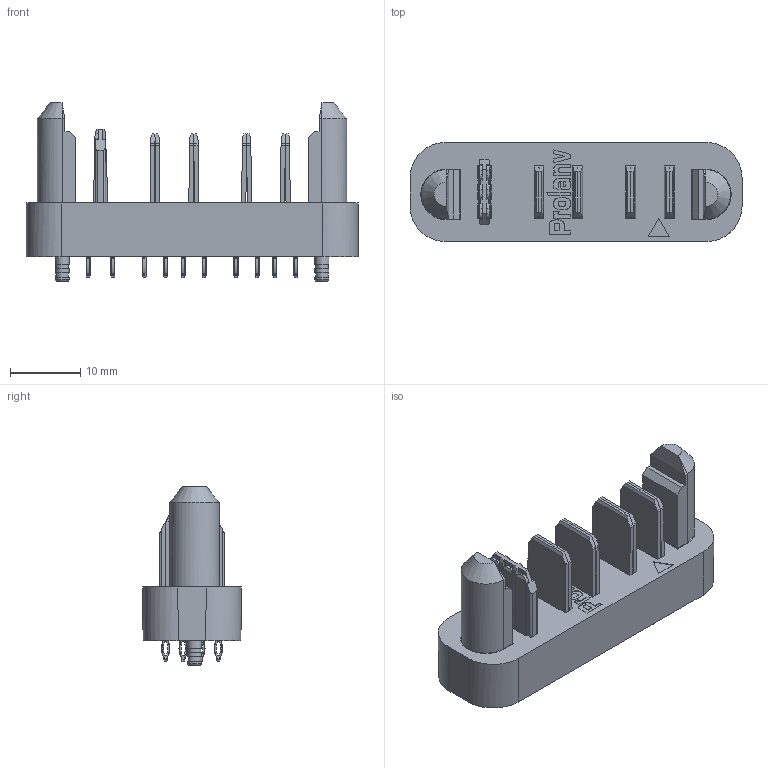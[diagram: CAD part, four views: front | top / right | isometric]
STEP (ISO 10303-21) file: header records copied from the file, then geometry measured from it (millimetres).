
FILE_DESCRIPTION(/* description */ (''),/* implementation_level */ '2;1');
FILE_NAME(/* name */ 'PDC01＋02信号优化Ｘ0.stp',/* time_stamp */ '2025-05-08T16:46:51+08:00',/* author */ (''),/* organization */ (''),/* preprocessor_version */ 'ST-DEVELOPER v16.7',/* originating_system */ 'SIEMENS PLM Software NX 1946',/* authorisation */ '');
FILE_SCHEMA (('AUTOMOTIVE_DESIGN { 1 0 10303 214 3 1 1 1 }'));
Length unit declared in the file: millimetre
Products named in the file (1): PDC01＋02信号优化Ｘ0
Bounding box: 47.14 x 14.05 x 25.38 mm (x, y, z)
Volume: 5806.3 mm3; surface area: 5995.4 mm2
Topology: 1 solids, 1 shells, 2519 faces, 6428 edges, 3949 vertices
Faces by surface type: cylinder 968, plane 870, torus 642, extrusion 31, cone 6, bspline 2
Full cylindrical faces by diameter (mm): 1.8 x4, 2 x6
Entity records: 91434 total; most frequent: CARTESIAN_POINT 14260, DIRECTION 14226, ORIENTED_EDGE 12832, EDGE_CURVE 6416, AXIS2_PLACEMENT_3D 5567, VERTEX_POINT 3949, VECTOR 3092, LINE 3061
